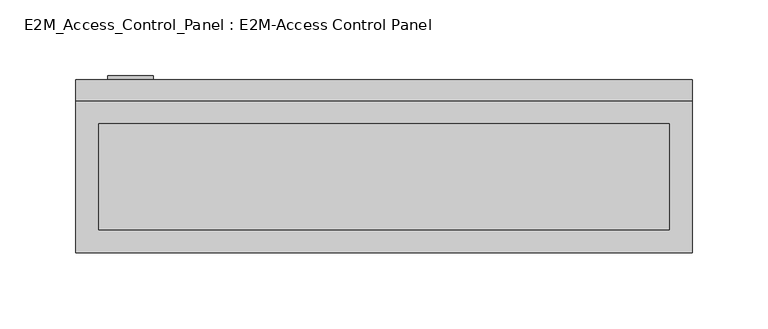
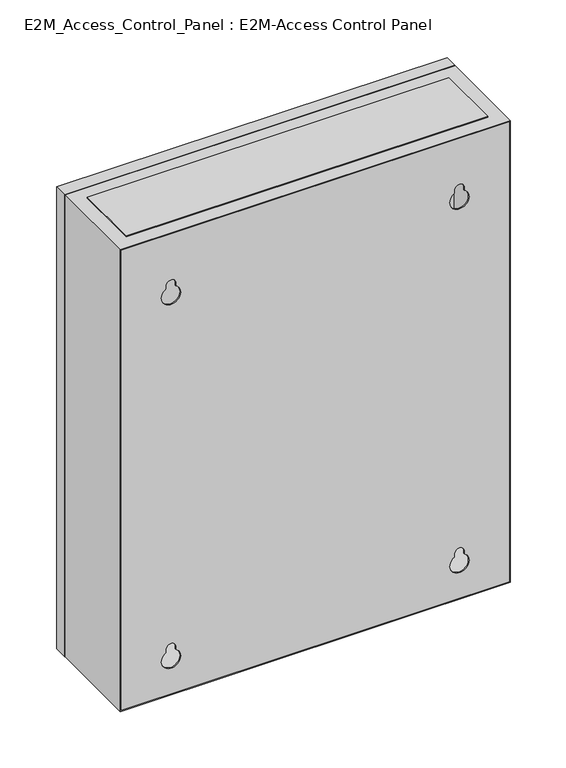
"""IFC4 building model written with IfcOpenShell, lengths in millimetres: proxy geometry, E2M_Access_Control_Panel : E2M-Access Control Panel."""

from ifc_helpers import new_model, si_unit, point, frame, frame_2d, origin, place, context, project, spatial, polyline, circle_curve, trimmed, segment, composite_curve, outline, extrude, source, transform, mapped, element, save


def e2m_access_control_panel_e2m_access_control_panel_2f39fd12(model_context):
    return source(origin(), model_context, "Body", "SweptSolid", [
        extrude(outline(polyline([(188.0, 236.0), (188.0, 166.0), (-188.0, 166.0), (-188.0, 236.0), (188.0, 236.0)])), frame((0.0, 0.0, 1090.267542), z_axis=(0.0, 0.0, 1.0), x_axis=(1.0, 0.0, 0.0)), (0.0, 0.0, 1.0), 1.0),
        extrude(outline(polyline([(188.0, 236.0), (188.0, 166.0), (-188.0, 166.0), (-188.0, 236.0), (188.0, 236.0)])), frame((0.0, 0.0, 1599.1733261), z_axis=(0.0, 0.0, 1.0), x_axis=(1.0, 0.0, 0.0)), (0.0, 0.0, 1.0), 1.0),
        extrude(outline(composite_curve([segment(trimmed(circle_curve(frame_2d((1432.2477718, -167.0)), 15.0), [point((1432.2477718, -182.0))], [point((1432.2477718, -152.0))], False, "CARTESIAN"), True, "CONTINUOUS"), segment(trimmed(circle_curve(frame_2d((1432.2477718, -167.0)), 15.0), [point((1432.2477718, -152.0))], [point((1432.2477718, -182.0))], False, "CARTESIAN"), True, "CONTINUOUS")], self_intersect=False), holes=[composite_curve([segment(trimmed(circle_curve(frame_2d((1432.2477718, -167.0)), 10.0), [point((1432.2477718, -177.0))], [point((1432.2477718, -157.0))], True, "CARTESIAN"), True, "CONTINUOUS"), segment(trimmed(circle_curve(frame_2d((1432.2477718, -167.0)), 10.0), [point((1432.2477718, -157.0))], [point((1432.2477718, -177.0))], True, "CARTESIAN"), True, "CONTINUOUS")], self_intersect=False)]), frame((0.0, 265.0, 0.0), z_axis=(0.0, 1.0, 0.0), x_axis=(0.0, 0.0, 1.0)), (0.0, 0.0, 1.0), 2.4582379),
        extrude(outline(composite_curve([segment(trimmed(circle_curve(frame_2d((1432.2477718, -167.0)), 5.0), [point((1432.2477718, -172.0))], [point((1432.2477718, -162.0))], False, "CARTESIAN"), True, "CONTINUOUS"), segment(trimmed(circle_curve(frame_2d((1432.2477718, -167.0)), 5.0), [point((1432.2477718, -162.0))], [point((1432.2477718, -172.0))], False, "CARTESIAN"), True, "CONTINUOUS")], self_intersect=False)), frame((0.0, 265.0, 0.0), z_axis=(0.0, 1.0, 0.0), x_axis=(0.0, 0.0, 1.0)), (0.0, 0.0, 1.0), 2.4582379),
        extrude(outline(polyline([(1598.1733261, -202.0), (1092.1733261, -202.0), (1092.1733261, 202.0), (1598.1733261, 202.0), (1598.1733261, -202.0)]), holes=[composite_curve([segment(trimmed(circle_curve(frame_2d((1542.628956, -150.0)), 5.0), [point((1542.628956, -155.0))], [point((1542.628956, -145.0))], True, "CARTESIAN"), True, "CONTINUOUS"), segment(polyline([(1542.628956, -145.0), (1539.3330615, -145.0)]), True, "CONTINUOUS"), segment(trimmed(circle_curve(frame_2d((1530.6728075, -150.0)), 10.0), [point((1539.3330615, -145.0))], [point((1539.3330615, -155.0))], True, "CARTESIAN"), True, "CONTINUOUS"), segment(polyline([(1539.3330615, -155.0), (1542.628956, -155.0)]), True, "CONTINUOUS")], self_intersect=False), composite_curve([segment(trimmed(circle_curve(frame_2d((1542.628956, 150.0)), 5.0), [point((1542.628956, 145.0))], [point((1542.628956, 155.0))], True, "CARTESIAN"), True, "CONTINUOUS"), segment(polyline([(1542.628956, 155.0), (1539.3330615, 155.0)]), True, "CONTINUOUS"), segment(trimmed(circle_curve(frame_2d((1530.6728075, 150.0)), 10.0), [point((1539.3330615, 155.0))], [point((1539.3330615, 145.0))], True, "CARTESIAN"), True, "CONTINUOUS"), segment(polyline([(1539.3330615, 145.0), (1542.628956, 145.0)]), True, "CONTINUOUS")], self_intersect=False), composite_curve([segment(trimmed(circle_curve(frame_2d((1142.628956, -150.0)), 5.0), [point((1142.628956, -155.0))], [point((1142.628956, -145.0))], True, "CARTESIAN"), True, "CONTINUOUS"), segment(polyline([(1142.628956, -145.0), (1139.3330615, -145.0)]), True, "CONTINUOUS"), segment(trimmed(circle_curve(frame_2d((1130.6728075, -150.0)), 10.0), [point((1139.3330615, -145.0))], [point((1139.3330615, -155.0))], True, "CARTESIAN"), True, "CONTINUOUS"), segment(polyline([(1139.3330615, -155.0), (1142.628956, -155.0)]), True, "CONTINUOUS")], self_intersect=False), composite_curve([segment(trimmed(circle_curve(frame_2d((1142.628956, 150.0)), 5.0), [point((1142.628956, 145.0))], [point((1142.628956, 155.0))], True, "CARTESIAN"), True, "CONTINUOUS"), segment(polyline([(1142.628956, 155.0), (1139.3330615, 155.0)]), True, "CONTINUOUS"), segment(trimmed(circle_curve(frame_2d((1130.6728075, 150.0)), 10.0), [point((1139.3330615, 155.0))], [point((1139.3330615, 145.0))], True, "CARTESIAN"), True, "CONTINUOUS"), segment(polyline([(1139.3330615, 145.0), (1142.628956, 145.0)]), True, "CONTINUOUS")], self_intersect=False)]), frame((0.0, 151.0, 0.0), z_axis=(0.0, 1.0, 0.0), x_axis=(0.0, 0.0, 1.0)), (0.0, 0.0, 1.0), 1.0),
        extrude(outline(polyline([(203.0, 251.0), (-203.0, 251.0), (-203.0, 265.0), (203.0, 265.0), (203.0, 251.0)])), frame((0.0, 0.0, 1091.1733261), z_axis=(0.0, 0.0, 1.0), x_axis=(1.0, 0.0, 0.0)), (0.0, 0.0, 1.0), 508.0),
        extrude(outline(polyline([(1599.1733261, -203.0), (1091.267542, -203.0), (1091.267542, 203.0), (1599.1733261, 203.0), (1599.1733261, -203.0)]), holes=[polyline([(1598.1733261, -202.0), (1598.1733261, 202.0), (1092.267542, 202.0), (1092.267542, -202.0), (1598.1733261, -202.0)])]), frame((0.0, 151.0, 0.0), z_axis=(0.0, 1.0, 0.0), x_axis=(0.0, 0.0, 1.0)), (0.0, 0.0, 1.0), 100.0),
    ])


if __name__ == "__main__":
    model = new_model("IFC4")
    model_context = context("Model", 3, world=origin())
    ifc_project = project(units=[si_unit("LENGTHUNIT", "METRE", prefix="MILLI")], contexts=[model_context])
    site = spatial("IfcSite", under=ifc_project)
    building = spatial("IfcBuilding", under=site)
    placement = place(None, origin())
    e2m_access_control_panel_e2m_access_control_panel_shape = e2m_access_control_panel_e2m_access_control_panel_2f39fd12(model_context)
    element("IfcBuildingElementProxy", 1, Name="E2M_Access_Control_Panel : E2M-Access Control Panel", ObjectType="E2M_Access_Control_Panel : E2M-Access Control Panel", at=placement, inside=building, context=model_context, shape_type="MappedRepresentation", body=[
        mapped(e2m_access_control_panel_e2m_access_control_panel_shape, transform((0.0, 0.0, 0.0), x_axis=(1.0, 0.0, 0.0), y_axis=(0.0, 1.0, 0.0), z_axis=(0.0, 0.0, 1.0))),
    ])
    save(model, "model.ifc")
